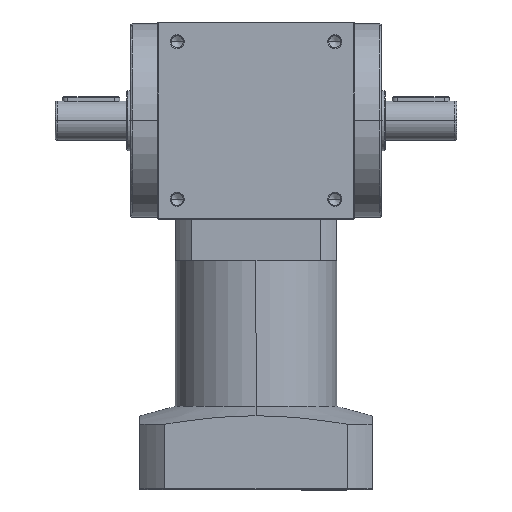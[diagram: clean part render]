
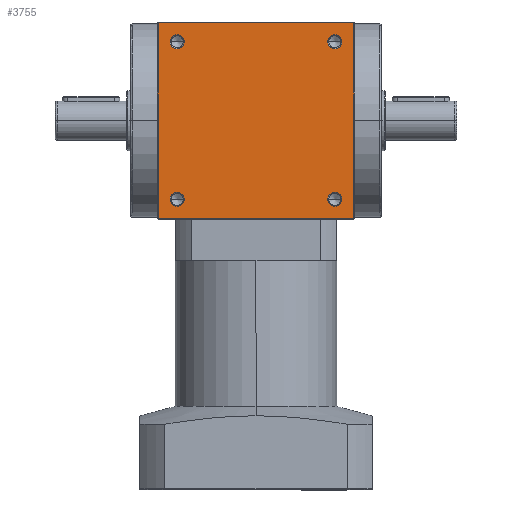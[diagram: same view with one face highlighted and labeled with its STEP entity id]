
A CAD part, top view. The second image highlights one B-rep face of the part: STEP entity #3755.
In plain terms, the highlighted planar face has unit normal (0, 0, 1).
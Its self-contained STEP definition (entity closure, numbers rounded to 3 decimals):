
#64 = ORIENTED_EDGE ( 'NONE', *, *, #4200, .F. ) ;
#161 = AXIS2_PLACEMENT_3D ( 'NONE', #3427, #9960, #4368 ) ;
#237 = CARTESIAN_POINT ( 'NONE',  ( 0., 54.5, 55. ) ) ;
#259 = EDGE_CURVE ( 'NONE', #1920, #6860, #3872, .T. ) ;
#367 = EDGE_LOOP ( 'NONE', ( #8198, #9530 ) ) ;
#536 = CARTESIAN_POINT ( 'NONE',  ( 44., -44., 55. ) ) ;
#631 = CIRCLE ( 'NONE', #786, 3.9 ) ;
#660 = AXIS2_PLACEMENT_3D ( 'NONE', #10674, #5082, #11593 ) ;
#786 = AXIS2_PLACEMENT_3D ( 'NONE', #3079, #9633, #4012 ) ;
#856 = CARTESIAN_POINT ( 'NONE',  ( 54.5, 0., 55. ) ) ;
#1269 = CARTESIAN_POINT ( 'NONE',  ( 0., -54.5, 55. ) ) ;
#1499 = DIRECTION ( 'NONE',  ( 0., -1., 0. ) ) ;
#1741 = ORIENTED_EDGE ( 'NONE', *, *, #11081, .F. ) ;
#1920 = VERTEX_POINT ( 'NONE', #10915 ) ;
#1926 = VERTEX_POINT ( 'NONE', #5312 ) ;
#1959 = FACE_BOUND ( 'NONE', #11042, .T. ) ;
#2153 = CIRCLE ( 'NONE', #2767, 3.9 ) ;
#2192 = CARTESIAN_POINT ( 'NONE',  ( -44., -47.9, 55. ) ) ;
#2276 = FACE_BOUND ( 'NONE', #367, .T. ) ;
#2353 = CARTESIAN_POINT ( 'NONE',  ( 47.9, 44., 55. ) ) ;
#2430 = CARTESIAN_POINT ( 'NONE',  ( -44., 40.1, 55. ) ) ;
#2630 = DIRECTION ( 'NONE',  ( 0., -1., 0. ) ) ;
#2647 = AXIS2_PLACEMENT_3D ( 'NONE', #4840, #4560, #2630 ) ;
#2726 = CARTESIAN_POINT ( 'NONE',  ( -54.5, -54.5, 55. ) ) ;
#2742 = DIRECTION ( 'NONE',  ( 0., -1., 0. ) ) ;
#2755 = VECTOR ( 'NONE', #2742, 1000. ) ;
#2767 = AXIS2_PLACEMENT_3D ( 'NONE', #8591, #2971, #9523 ) ;
#2926 = CARTESIAN_POINT ( 'NONE',  ( -44., -44., 55. ) ) ;
#2939 = CARTESIAN_POINT ( 'NONE',  ( 0., 0., 55. ) ) ;
#2971 = DIRECTION ( 'NONE',  ( 0., 0., 1. ) ) ;
#3079 = CARTESIAN_POINT ( 'NONE',  ( 44., 44., 55. ) ) ;
#3134 = ORIENTED_EDGE ( 'NONE', *, *, #6397, .F. ) ;
#3419 = CIRCLE ( 'NONE', #8918, 3.9 ) ;
#3427 = CARTESIAN_POINT ( 'NONE',  ( -44., 44., 55. ) ) ;
#3489 = AXIS2_PLACEMENT_3D ( 'NONE', #11089, #5501, #12016 ) ;
#3500 = CARTESIAN_POINT ( 'NONE',  ( 54.5, 54.5, 55. ) ) ;
#3508 = CARTESIAN_POINT ( 'NONE',  ( -44., 47.9, 55. ) ) ;
#3529 = EDGE_LOOP ( 'NONE', ( #5470, #7078, #8974, #4629 ) ) ;
#3671 = VECTOR ( 'NONE', #8761, 1000. ) ;
#3752 = AXIS2_PLACEMENT_3D ( 'NONE', #2926, #9486, #3863 ) ;
#3755 = ADVANCED_FACE ( 'NONE', ( #9463, #4478, #2276, #1959, #6978 ), #4788, .F. ) ;
#3863 = DIRECTION ( 'NONE',  ( 0., -1., 0. ) ) ;
#3872 = CIRCLE ( 'NONE', #2647, 3.9 ) ;
#3873 = DIRECTION ( 'NONE',  ( -1., 0., 0. ) ) ;
#4012 = DIRECTION ( 'NONE',  ( 1., 0., 0. ) ) ;
#4026 = VERTEX_POINT ( 'NONE', #9424 ) ;
#4128 = EDGE_CURVE ( 'NONE', #1926, #11913, #9868, .T. ) ;
#4200 = EDGE_CURVE ( 'NONE', #4026, #4220, #3419, .T. ) ;
#4220 = VERTEX_POINT ( 'NONE', #5302 ) ;
#4292 = VERTEX_POINT ( 'NONE', #3500 ) ;
#4305 = EDGE_LOOP ( 'NONE', ( #8401, #11495 ) ) ;
#4368 = DIRECTION ( 'NONE',  ( 0., -1., 0. ) ) ;
#4478 = FACE_BOUND ( 'NONE', #8017, .T. ) ;
#4530 = EDGE_CURVE ( 'NONE', #10241, #6134, #2153, .T. ) ;
#4560 = DIRECTION ( 'NONE',  ( 0., 0., 1. ) ) ;
#4629 = ORIENTED_EDGE ( 'NONE', *, *, #10146, .F. ) ;
#4763 = CIRCLE ( 'NONE', #660, 3.9 ) ;
#4788 = PLANE ( 'NONE',  #5907 ) ;
#4840 = CARTESIAN_POINT ( 'NONE',  ( -44., -44., 55. ) ) ;
#4991 = VECTOR ( 'NONE', #9735, 1000. ) ;
#5082 = DIRECTION ( 'NONE',  ( 0., 0., 1. ) ) ;
#5302 = CARTESIAN_POINT ( 'NONE',  ( 44., -47.9, 55. ) ) ;
#5303 = VERTEX_POINT ( 'NONE', #12140 ) ;
#5312 = CARTESIAN_POINT ( 'NONE',  ( 54.5, -54.5, 55. ) ) ;
#5470 = ORIENTED_EDGE ( 'NONE', *, *, #4128, .F. ) ;
#5501 = DIRECTION ( 'NONE',  ( 0., 0., 1. ) ) ;
#5907 = AXIS2_PLACEMENT_3D ( 'NONE', #2939, #9494, #3873 ) ;
#6134 = VERTEX_POINT ( 'NONE', #3508 ) ;
#6244 = ORIENTED_EDGE ( 'NONE', *, *, #10375, .F. ) ;
#6286 = VERTEX_POINT ( 'NONE', #10541 ) ;
#6397 = EDGE_CURVE ( 'NONE', #5303, #6895, #4763, .T. ) ;
#6788 = EDGE_CURVE ( 'NONE', #6860, #1920, #11863, .T. ) ;
#6860 = VERTEX_POINT ( 'NONE', #2192 ) ;
#6895 = VERTEX_POINT ( 'NONE', #2353 ) ;
#6924 = DIRECTION ( 'NONE',  ( -1., 0., 0. ) ) ;
#6978 = FACE_OUTER_BOUND ( 'NONE', #3529, .T. ) ;
#7078 = ORIENTED_EDGE ( 'NONE', *, *, #8446, .F. ) ;
#7161 = DIRECTION ( 'NONE',  ( 0., 0., 1. ) ) ;
#7491 = LINE ( 'NONE', #11582, #4991 ) ;
#7729 = EDGE_CURVE ( 'NONE', #6134, #10241, #8243, .T. ) ;
#8017 = EDGE_LOOP ( 'NONE', ( #1741, #3134 ) ) ;
#8198 = ORIENTED_EDGE ( 'NONE', *, *, #6788, .F. ) ;
#8243 = CIRCLE ( 'NONE', #161, 3.9 ) ;
#8401 = ORIENTED_EDGE ( 'NONE', *, *, #4530, .F. ) ;
#8446 = EDGE_CURVE ( 'NONE', #4292, #1926, #9936, .T. ) ;
#8591 = CARTESIAN_POINT ( 'NONE',  ( -44., 44., 55. ) ) ;
#8761 = DIRECTION ( 'NONE',  ( -1., 0., 0. ) ) ;
#8918 = AXIS2_PLACEMENT_3D ( 'NONE', #536, #7161, #1499 ) ;
#8974 = ORIENTED_EDGE ( 'NONE', *, *, #10121, .T. ) ;
#9424 = CARTESIAN_POINT ( 'NONE',  ( 44., -40.1, 55. ) ) ;
#9463 = FACE_BOUND ( 'NONE', #4305, .T. ) ;
#9486 = DIRECTION ( 'NONE',  ( 0., 0., 1. ) ) ;
#9494 = DIRECTION ( 'NONE',  ( 0., 0., -1. ) ) ;
#9523 = DIRECTION ( 'NONE',  ( 0., -1., 0. ) ) ;
#9530 = ORIENTED_EDGE ( 'NONE', *, *, #259, .F. ) ;
#9633 = DIRECTION ( 'NONE',  ( 0., 0., 1. ) ) ;
#9735 = DIRECTION ( 'NONE',  ( 0., 1., 0. ) ) ;
#9868 = LINE ( 'NONE', #1269, #12025 ) ;
#9936 = LINE ( 'NONE', #856, #2755 ) ;
#9960 = DIRECTION ( 'NONE',  ( 0., 0., 1. ) ) ;
#10121 = EDGE_CURVE ( 'NONE', #4292, #6286, #11988, .T. ) ;
#10146 = EDGE_CURVE ( 'NONE', #11913, #6286, #7491, .T. ) ;
#10241 = VERTEX_POINT ( 'NONE', #2430 ) ;
#10375 = EDGE_CURVE ( 'NONE', #4220, #4026, #10837, .T. ) ;
#10541 = CARTESIAN_POINT ( 'NONE',  ( -54.5, 54.5, 55. ) ) ;
#10674 = CARTESIAN_POINT ( 'NONE',  ( 44., 44., 55. ) ) ;
#10837 = CIRCLE ( 'NONE', #3489, 3.9 ) ;
#10915 = CARTESIAN_POINT ( 'NONE',  ( -44., -40.1, 55. ) ) ;
#11042 = EDGE_LOOP ( 'NONE', ( #6244, #64 ) ) ;
#11081 = EDGE_CURVE ( 'NONE', #6895, #5303, #631, .T. ) ;
#11089 = CARTESIAN_POINT ( 'NONE',  ( 44., -44., 55. ) ) ;
#11495 = ORIENTED_EDGE ( 'NONE', *, *, #7729, .F. ) ;
#11582 = CARTESIAN_POINT ( 'NONE',  ( -54.5, 0., 55. ) ) ;
#11593 = DIRECTION ( 'NONE',  ( 1., 0., 0. ) ) ;
#11863 = CIRCLE ( 'NONE', #3752, 3.9 ) ;
#11913 = VERTEX_POINT ( 'NONE', #2726 ) ;
#11988 = LINE ( 'NONE', #237, #3671 ) ;
#12016 = DIRECTION ( 'NONE',  ( 0., -1., 0. ) ) ;
#12025 = VECTOR ( 'NONE', #6924, 1000. ) ;
#12140 = CARTESIAN_POINT ( 'NONE',  ( 40.1, 44., 55. ) ) ;
